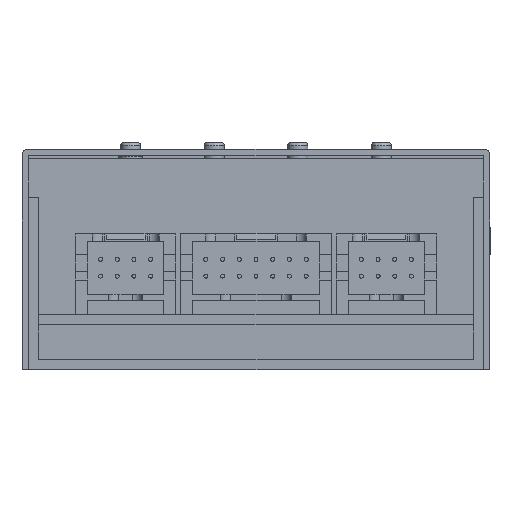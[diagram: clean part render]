
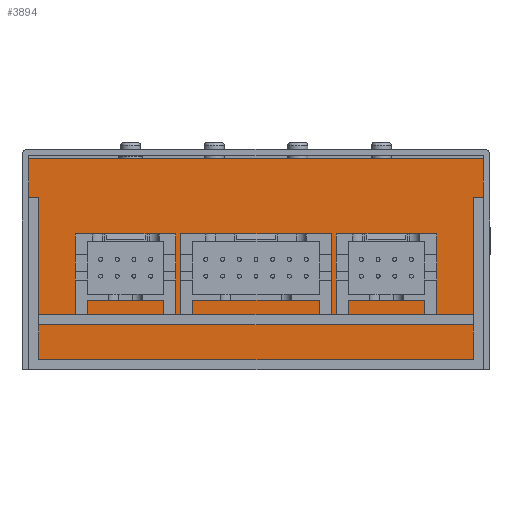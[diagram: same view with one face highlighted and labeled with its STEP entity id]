
A CAD part, front view. The second image highlights one B-rep face of the part: STEP entity #3894.
In plain terms, the highlighted free-form (B-spline) face has degree [1, 1] with [2, 2] control points.
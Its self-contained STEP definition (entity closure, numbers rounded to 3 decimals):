
#272 = B_SPLINE_CURVE_WITH_KNOTS ( 'NONE', 1,
 ( #11220, #19334 ),
 .UNSPECIFIED., .F., .F.,
 ( 2, 2 ),
 ( 0., 1. ),
 .UNSPECIFIED. ) ;
#684 = VERTEX_POINT ( 'NONE', #1068 ) ;
#933 = CARTESIAN_POINT ( 'NONE',  ( 32.5, -29.5, 17.6 ) ) ;
#1042 = EDGE_LOOP ( 'NONE', ( #9241, #17274, #20542, #20493, #2947, #1125, #9945, #16551 ) ) ;
#1068 = CARTESIAN_POINT ( 'NONE',  ( 34., -29.5, 17.6 ) ) ;
#1076 = CARTESIAN_POINT ( 'NONE',  ( -34., -29.5, -6.7 ) ) ;
#1125 = ORIENTED_EDGE ( 'NONE', *, *, #3929, .T. ) ;
#1148 = CARTESIAN_POINT ( 'NONE',  ( 34., -29.5, 17.6 ) ) ;
#1192 = EDGE_CURVE ( 'NONE', #7168, #13577, #272, .T. ) ;
#1816 = EDGE_CURVE ( 'NONE', #11935, #7168, #9668, .T. ) ;
#1877 = CARTESIAN_POINT ( 'NONE',  ( -34., -29.5, 23.4 ) ) ;
#2453 = VERTEX_POINT ( 'NONE', #2929 ) ;
#2537 = CARTESIAN_POINT ( 'NONE',  ( -34., -29.5, 17.6 ) ) ;
#2929 = CARTESIAN_POINT ( 'NONE',  ( 32.5, -29.5, -6.7 ) ) ;
#2947 = ORIENTED_EDGE ( 'NONE', *, *, #13611, .F. ) ;
#3400 = B_SPLINE_CURVE_WITH_KNOTS ( 'NONE', 1,
 ( #13063, #12995 ),
 .UNSPECIFIED., .F., .F.,
 ( 2, 2 ),
 ( 0., 1. ),
 .UNSPECIFIED. ) ;
#3668 = CARTESIAN_POINT ( 'NONE',  ( 34., -29.5, 23.4 ) ) ;
#3894 = ADVANCED_FACE ( 'NONE', ( #5111 ), #9392, .F. ) ;
#3929 = EDGE_CURVE ( 'NONE', #5463, #2453, #18920, .T. ) ;
#4717 = B_SPLINE_CURVE_WITH_KNOTS ( 'NONE', 1,
 ( #17761, #1148 ),
 .UNSPECIFIED., .F., .F.,
 ( 2, 2 ),
 ( 0., 1. ),
 .UNSPECIFIED. ) ;
#5111 = FACE_OUTER_BOUND ( 'NONE', #1042, .T. ) ;
#5463 = VERTEX_POINT ( 'NONE', #933 ) ;
#6360 = CARTESIAN_POINT ( 'NONE',  ( 34., -29.5, 23.4 ) ) ;
#6953 = CARTESIAN_POINT ( 'NONE',  ( -34., -29.5, 17.6 ) ) ;
#7020 = CARTESIAN_POINT ( 'NONE',  ( -32.5, -29.5, 17.6 ) ) ;
#7168 = VERTEX_POINT ( 'NONE', #8133 ) ;
#7704 = CARTESIAN_POINT ( 'NONE',  ( 32.5, -29.5, -6.7 ) ) ;
#7908 = CARTESIAN_POINT ( 'NONE',  ( -32.5, -29.5, -6.7 ) ) ;
#7948 = CARTESIAN_POINT ( 'NONE',  ( 32.5, -29.5, -6.7 ) ) ;
#8133 = CARTESIAN_POINT ( 'NONE',  ( -32.5, -29.5, 17.6 ) ) ;
#8399 = B_SPLINE_CURVE_WITH_KNOTS ( 'NONE', 1,
 ( #7948, #21008 ),
 .UNSPECIFIED., .F., .F.,
 ( 2, 2 ),
 ( 0., 1. ),
 .UNSPECIFIED. ) ;
#9241 = ORIENTED_EDGE ( 'NONE', *, *, #1816, .F. ) ;
#9392 = B_SPLINE_SURFACE_WITH_KNOTS ( 'NONE', 1, 1, ( 
 ( #10871, #10944 ),
 ( #1076, #15526 ) ),
 .UNSPECIFIED., .F., .F., .F.,
 ( 2, 2 ),
 ( 2, 2 ),
 ( 0., 1. ),
 ( 0., 1. ),
 .UNSPECIFIED. ) ;
#9668 = B_SPLINE_CURVE_WITH_KNOTS ( 'NONE', 1,
 ( #6953, #7020 ),
 .UNSPECIFIED., .F., .F.,
 ( 2, 2 ),
 ( 0., 1. ),
 .UNSPECIFIED. ) ;
#9926 = CARTESIAN_POINT ( 'NONE',  ( 34., -29.5, 23.4 ) ) ;
#9945 = ORIENTED_EDGE ( 'NONE', *, *, #15743, .T. ) ;
#10871 = CARTESIAN_POINT ( 'NONE',  ( -34., -29.5, 23.4 ) ) ;
#10927 = CARTESIAN_POINT ( 'NONE',  ( -34., -29.5, 23.4 ) ) ;
#10944 = CARTESIAN_POINT ( 'NONE',  ( 34., -29.5, 23.4 ) ) ;
#11220 = CARTESIAN_POINT ( 'NONE',  ( -32.5, -29.5, 17.6 ) ) ;
#11935 = VERTEX_POINT ( 'NONE', #2537 ) ;
#12154 = B_SPLINE_CURVE_WITH_KNOTS ( 'NONE', 1,
 ( #21064, #6360 ),
 .UNSPECIFIED., .F., .F.,
 ( 2, 2 ),
 ( 0., 1. ),
 .UNSPECIFIED. ) ;
#12420 = VERTEX_POINT ( 'NONE', #3668 ) ;
#12995 = CARTESIAN_POINT ( 'NONE',  ( -34., -29.5, 17.6 ) ) ;
#13063 = CARTESIAN_POINT ( 'NONE',  ( -34., -29.5, 23.4 ) ) ;
#13577 = VERTEX_POINT ( 'NONE', #7908 ) ;
#13611 = EDGE_CURVE ( 'NONE', #5463, #684, #4717, .T. ) ;
#15526 = CARTESIAN_POINT ( 'NONE',  ( 34., -29.5, -6.7 ) ) ;
#15743 = EDGE_CURVE ( 'NONE', #2453, #13577, #8399, .T. ) ;
#15959 = CARTESIAN_POINT ( 'NONE',  ( 32.5, -29.5, 17.6 ) ) ;
#16116 = EDGE_CURVE ( 'NONE', #684, #12420, #12154, .T. ) ;
#16551 = ORIENTED_EDGE ( 'NONE', *, *, #1192, .F. ) ;
#17265 = EDGE_CURVE ( 'NONE', #12420, #19981, #18202, .T. ) ;
#17274 = ORIENTED_EDGE ( 'NONE', *, *, #19227, .F. ) ;
#17761 = CARTESIAN_POINT ( 'NONE',  ( 32.5, -29.5, 17.6 ) ) ;
#18202 = B_SPLINE_CURVE_WITH_KNOTS ( 'NONE', 1,
 ( #9926, #1877 ),
 .UNSPECIFIED., .F., .F.,
 ( 2, 2 ),
 ( 0., 1. ),
 .UNSPECIFIED. ) ;
#18920 = B_SPLINE_CURVE_WITH_KNOTS ( 'NONE', 1,
 ( #15959, #7704 ),
 .UNSPECIFIED., .F., .F.,
 ( 2, 2 ),
 ( 0., 1. ),
 .UNSPECIFIED. ) ;
#19227 = EDGE_CURVE ( 'NONE', #19981, #11935, #3400, .T. ) ;
#19334 = CARTESIAN_POINT ( 'NONE',  ( -32.5, -29.5, -6.7 ) ) ;
#19981 = VERTEX_POINT ( 'NONE', #10927 ) ;
#20493 = ORIENTED_EDGE ( 'NONE', *, *, #16116, .F. ) ;
#20542 = ORIENTED_EDGE ( 'NONE', *, *, #17265, .F. ) ;
#21008 = CARTESIAN_POINT ( 'NONE',  ( -32.5, -29.5, -6.7 ) ) ;
#21064 = CARTESIAN_POINT ( 'NONE',  ( 34., -29.5, 17.6 ) ) ;
